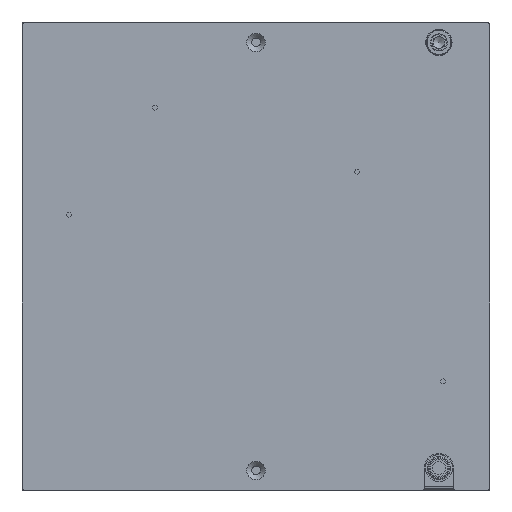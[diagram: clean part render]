
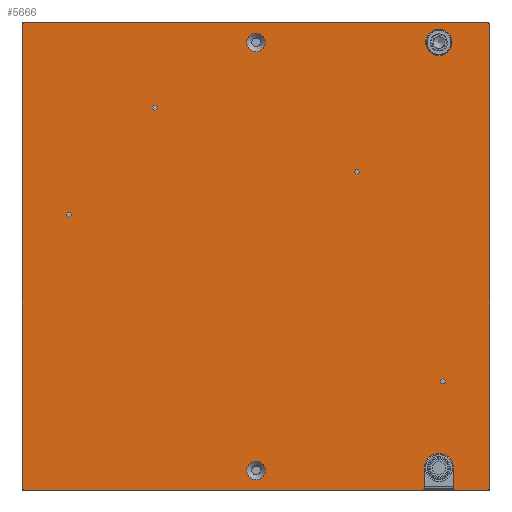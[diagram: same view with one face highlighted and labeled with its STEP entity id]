
A CAD part, front view. The second image highlights one B-rep face of the part: STEP entity #5666.
In plain terms, the highlighted planar face has unit normal (0, -1, 0).
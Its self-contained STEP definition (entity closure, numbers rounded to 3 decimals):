
#209=PLANE('',#6175);
#503=LINE('',#9267,#1008);
#507=LINE('',#9276,#1012);
#509=LINE('',#9280,#1014);
#513=LINE('',#9289,#1018);
#517=LINE('',#9298,#1022);
#523=LINE('',#9321,#1028);
#524=LINE('',#9322,#1029);
#1008=VECTOR('',#7058,1000.);
#1012=VECTOR('',#7064,1000.);
#1014=VECTOR('',#7068,1000.);
#1018=VECTOR('',#7074,1000.);
#1022=VECTOR('',#7080,1000.);
#1028=VECTOR('',#7106,1000.);
#1029=VECTOR('',#7107,1000.);
#1828=ORIENTED_EDGE('',*,*,#3203,.F.);
#1829=ORIENTED_EDGE('',*,*,#3225,.T.);
#1830=ORIENTED_EDGE('',*,*,#3213,.F.);
#1831=ORIENTED_EDGE('',*,*,#3226,.T.);
#1832=ORIENTED_EDGE('',*,*,#3227,.T.);
#1833=ORIENTED_EDGE('',*,*,#3177,.T.);
#1834=ORIENTED_EDGE('',*,*,#3228,.F.);
#1835=ORIENTED_EDGE('',*,*,#3229,.T.);
#1836=ORIENTED_EDGE('',*,*,#3199,.F.);
#1837=ORIENTED_EDGE('',*,*,#3230,.T.);
#1838=ORIENTED_EDGE('',*,*,#3209,.F.);
#1839=ORIENTED_EDGE('',*,*,#3231,.T.);
#1840=ORIENTED_EDGE('',*,*,#3205,.F.);
#1841=ORIENTED_EDGE('',*,*,#3232,.T.);
#1842=ORIENTED_EDGE('',*,*,#3175,.F.);
#1843=ORIENTED_EDGE('',*,*,#3184,.T.);
#1844=ORIENTED_EDGE('',*,*,#3186,.T.);
#1845=ORIENTED_EDGE('',*,*,#3188,.T.);
#1846=ORIENTED_EDGE('',*,*,#3190,.T.);
#1847=ORIENTED_EDGE('',*,*,#3191,.F.);
#1848=ORIENTED_EDGE('',*,*,#3194,.F.);
#3175=EDGE_CURVE('',#3896,#3896,#4344,.T.);
#3177=EDGE_CURVE('',#3898,#3899,#4346,.T.);
#3184=EDGE_CURVE('',#3905,#3905,#4351,.T.);
#3186=EDGE_CURVE('',#3907,#3907,#4353,.T.);
#3188=EDGE_CURVE('',#3909,#3909,#4355,.T.);
#3190=EDGE_CURVE('',#3911,#3911,#4357,.T.);
#3191=EDGE_CURVE('',#3912,#3912,#4358,.T.);
#3194=EDGE_CURVE('',#3915,#3915,#4361,.T.);
#3199=EDGE_CURVE('',#3920,#3921,#503,.T.);
#3203=EDGE_CURVE('',#3924,#3925,#507,.T.);
#3205=EDGE_CURVE('',#3926,#3927,#509,.T.);
#3209=EDGE_CURVE('',#3930,#3931,#513,.T.);
#3213=EDGE_CURVE('',#3934,#3935,#517,.T.);
#3225=EDGE_CURVE('',#3924,#3935,#4370,.T.);
#3226=EDGE_CURVE('',#3934,#3940,#4371,.T.);
#3227=EDGE_CURVE('',#3940,#3898,#523,.T.);
#3228=EDGE_CURVE('',#3941,#3899,#524,.T.);
#3229=EDGE_CURVE('',#3941,#3921,#4372,.T.);
#3230=EDGE_CURVE('',#3920,#3931,#4373,.T.);
#3231=EDGE_CURVE('',#3930,#3927,#4374,.T.);
#3232=EDGE_CURVE('',#3926,#3925,#4375,.T.);
#3896=VERTEX_POINT('',#9208);
#3898=VERTEX_POINT('',#9213);
#3899=VERTEX_POINT('',#9214);
#3905=VERTEX_POINT('',#9229);
#3907=VERTEX_POINT('',#9234);
#3909=VERTEX_POINT('',#9239);
#3911=VERTEX_POINT('',#9244);
#3912=VERTEX_POINT('',#9247);
#3915=VERTEX_POINT('',#9255);
#3920=VERTEX_POINT('',#9266);
#3921=VERTEX_POINT('',#9268);
#3924=VERTEX_POINT('',#9275);
#3925=VERTEX_POINT('',#9277);
#3926=VERTEX_POINT('',#9281);
#3927=VERTEX_POINT('',#9282);
#3930=VERTEX_POINT('',#9290);
#3931=VERTEX_POINT('',#9291);
#3934=VERTEX_POINT('',#9299);
#3935=VERTEX_POINT('',#9300);
#3940=VERTEX_POINT('',#9320);
#3941=VERTEX_POINT('',#9323);
#4344=CIRCLE('',#6133,6.75);
#4346=CIRCLE('',#6136,7.5);
#4351=CIRCLE('',#6143,1.25);
#4353=CIRCLE('',#6146,1.25);
#4355=CIRCLE('',#6149,1.25);
#4357=CIRCLE('',#6152,1.25);
#4358=CIRCLE('',#6154,4.7);
#4361=CIRCLE('',#6159,4.7);
#4370=CIRCLE('',#6176,1.);
#4371=CIRCLE('',#6177,1.);
#4372=CIRCLE('',#6178,1.);
#4373=CIRCLE('',#6179,1.);
#4374=CIRCLE('',#6180,1.);
#4375=CIRCLE('',#6181,1.);
#4698=EDGE_LOOP('',(#1828,#1829,#1830,#1831,#1832,#1833,#1834,#1835,#1836,
#1837,#1838,#1839,#1840,#1841));
#4699=EDGE_LOOP('',(#1842));
#4700=EDGE_LOOP('',(#1843));
#4701=EDGE_LOOP('',(#1844));
#4702=EDGE_LOOP('',(#1845));
#4703=EDGE_LOOP('',(#1846));
#4704=EDGE_LOOP('',(#1847));
#4705=EDGE_LOOP('',(#1848));
#5130=FACE_BOUND('',#4698,.T.);
#5131=FACE_BOUND('',#4699,.T.);
#5132=FACE_BOUND('',#4700,.T.);
#5133=FACE_BOUND('',#4701,.T.);
#5134=FACE_BOUND('',#4702,.T.);
#5135=FACE_BOUND('',#4703,.T.);
#5136=FACE_BOUND('',#4704,.T.);
#5137=FACE_BOUND('',#4705,.T.);
#5666=ADVANCED_FACE('',(#5130,#5131,#5132,#5133,#5134,#5135,#5136,#5137),
#209,.F.);
#6133=AXIS2_PLACEMENT_3D('',#9207,#6992,#6993);
#6136=AXIS2_PLACEMENT_3D('',#9212,#6998,#6999);
#6143=AXIS2_PLACEMENT_3D('',#9228,#7014,#7015);
#6146=AXIS2_PLACEMENT_3D('',#9233,#7020,#7021);
#6149=AXIS2_PLACEMENT_3D('',#9238,#7026,#7027);
#6152=AXIS2_PLACEMENT_3D('',#9243,#7032,#7033);
#6154=AXIS2_PLACEMENT_3D('',#9246,#7036,#7037);
#6159=AXIS2_PLACEMENT_3D('',#9254,#7046,#7047);
#6175=AXIS2_PLACEMENT_3D('',#9317,#7100,#7101);
#6176=AXIS2_PLACEMENT_3D('',#9318,#7102,#7103);
#6177=AXIS2_PLACEMENT_3D('',#9319,#7104,#7105);
#6178=AXIS2_PLACEMENT_3D('',#9324,#7108,#7109);
#6179=AXIS2_PLACEMENT_3D('',#9325,#7110,#7111);
#6180=AXIS2_PLACEMENT_3D('',#9326,#7112,#7113);
#6181=AXIS2_PLACEMENT_3D('',#9327,#7114,#7115);
#6992=DIRECTION('',(0.,-1.,0.));
#6993=DIRECTION('',(0.,0.,-1.));
#6998=DIRECTION('',(0.,1.,0.));
#6999=DIRECTION('',(0.,0.,1.));
#7014=DIRECTION('',(0.,1.,0.));
#7015=DIRECTION('',(0.,0.,1.));
#7020=DIRECTION('',(0.,1.,0.));
#7021=DIRECTION('',(0.,0.,1.));
#7026=DIRECTION('',(0.,1.,0.));
#7027=DIRECTION('',(0.,0.,1.));
#7032=DIRECTION('',(0.,1.,0.));
#7033=DIRECTION('',(0.,0.,1.));
#7036=DIRECTION('',(0.,-1.,0.));
#7037=DIRECTION('',(0.,0.,-1.));
#7046=DIRECTION('',(0.,-1.,0.));
#7047=DIRECTION('',(0.,0.,-1.));
#7058=DIRECTION('',(-1.,0.,0.));
#7064=DIRECTION('',(0.,0.,1.));
#7068=DIRECTION('',(1.,0.,0.));
#7074=DIRECTION('',(0.,0.,-1.));
#7080=DIRECTION('',(-1.,0.,0.));
#7100=DIRECTION('',(0.,1.,0.));
#7101=DIRECTION('',(1.,0.,0.));
#7102=DIRECTION('',(0.,-1.,0.));
#7103=DIRECTION('',(0.,0.,1.));
#7104=DIRECTION('',(0.,-1.,0.));
#7105=DIRECTION('',(0.,0.,1.));
#7106=DIRECTION('',(0.,0.,1.));
#7107=DIRECTION('',(0.,0.,1.));
#7108=DIRECTION('',(0.,-1.,0.));
#7109=DIRECTION('',(0.,0.,1.));
#7110=DIRECTION('',(0.,-1.,0.));
#7111=DIRECTION('',(0.,0.,1.));
#7112=DIRECTION('',(0.,-1.,0.));
#7113=DIRECTION('',(0.,0.,1.));
#7114=DIRECTION('',(0.,-1.,0.));
#7115=DIRECTION('',(0.,0.,1.));
#9207=CARTESIAN_POINT('',(94.,0.,110.));
#9208=CARTESIAN_POINT('',(94.,0.,103.25));
#9212=CARTESIAN_POINT('',(94.,0.,-108.75));
#9213=CARTESIAN_POINT('',(86.5,0.,-108.75));
#9214=CARTESIAN_POINT('',(101.5,0.,-108.75));
#9228=CARTESIAN_POINT('',(96.25,0.,-64.125));
#9229=CARTESIAN_POINT('',(96.25,0.,-62.875));
#9233=CARTESIAN_POINT('',(-96.25,0.,21.375));
#9234=CARTESIAN_POINT('',(-96.25,0.,22.625));
#9238=CARTESIAN_POINT('',(-52.,0.,76.51));
#9239=CARTESIAN_POINT('',(-52.,0.,77.76));
#9243=CARTESIAN_POINT('',(52.,0.,43.51));
#9244=CARTESIAN_POINT('',(52.,0.,44.76));
#9246=CARTESIAN_POINT('',(0.,0.,110.));
#9247=CARTESIAN_POINT('',(0.,0.,105.3));
#9254=CARTESIAN_POINT('',(0.,0.,-110.));
#9255=CARTESIAN_POINT('',(0.,0.,-114.7));
#9266=CARTESIAN_POINT('',(119.,0.,-120.));
#9267=CARTESIAN_POINT('',(120.,0.,-120.));
#9268=CARTESIAN_POINT('',(102.5,0.,-120.));
#9275=CARTESIAN_POINT('',(-120.,0.,-119.));
#9276=CARTESIAN_POINT('',(-120.,0.,120.));
#9277=CARTESIAN_POINT('',(-120.,0.,119.));
#9280=CARTESIAN_POINT('',(120.,0.,120.));
#9281=CARTESIAN_POINT('',(-119.,0.,120.));
#9282=CARTESIAN_POINT('',(119.,0.,120.));
#9289=CARTESIAN_POINT('',(120.,0.,120.));
#9290=CARTESIAN_POINT('',(120.,0.,119.));
#9291=CARTESIAN_POINT('',(120.,0.,-119.));
#9298=CARTESIAN_POINT('',(120.,0.,-120.));
#9299=CARTESIAN_POINT('',(85.5,0.,-120.));
#9300=CARTESIAN_POINT('',(-119.,0.,-120.));
#9317=CARTESIAN_POINT('',(0.,0.,0.));
#9318=CARTESIAN_POINT('',(-119.,0.,-119.));
#9319=CARTESIAN_POINT('',(85.5,0.,-119.));
#9320=CARTESIAN_POINT('',(86.5,0.,-119.));
#9321=CARTESIAN_POINT('',(86.5,0.,-120.));
#9322=CARTESIAN_POINT('',(101.5,0.,-120.));
#9323=CARTESIAN_POINT('',(101.5,0.,-119.));
#9324=CARTESIAN_POINT('',(102.5,0.,-119.));
#9325=CARTESIAN_POINT('',(119.,0.,-119.));
#9326=CARTESIAN_POINT('',(119.,0.,119.));
#9327=CARTESIAN_POINT('',(-119.,0.,119.));
